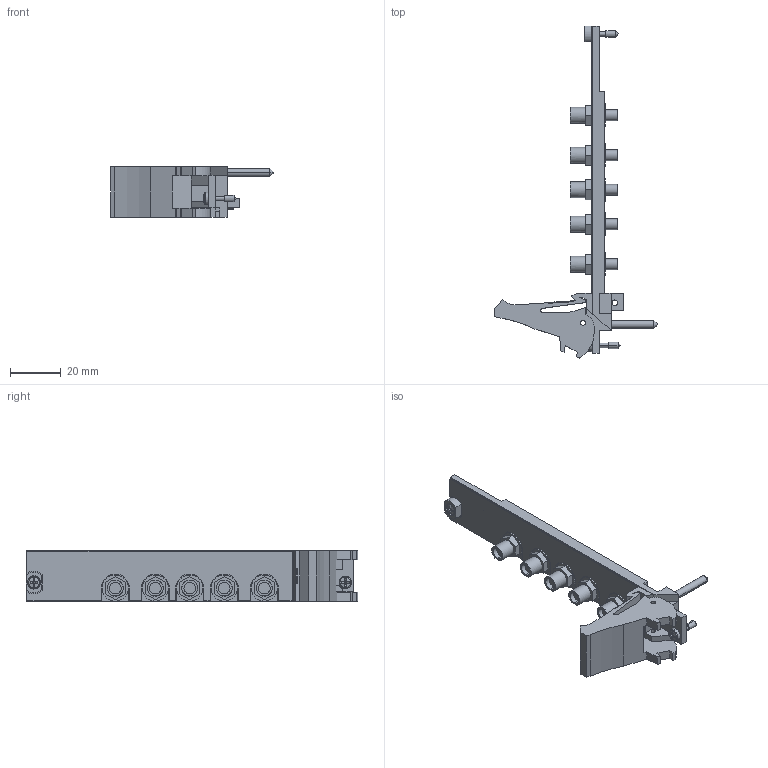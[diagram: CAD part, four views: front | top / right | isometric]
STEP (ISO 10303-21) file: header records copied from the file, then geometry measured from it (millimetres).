
FILE_DESCRIPTION((''),'2;1');
FILE_NAME('CU_PXI-2545','2009-11-10T',('jjorden'),(''),'PRO/ENGINEER BY PARAMETRIC TECHNOLOGY CORPORATION, 2006080','PRO/ENGINEER BY PARAMETRIC TECHNOLOGY CORPORATION, 2006080','');
FILE_SCHEMA(('CONFIG_CONTROL_DESIGN'));
Length unit declared in the file: inch
Products named in the file (1): CU_PXI-2545
Bounding box: 63.73 x 130.43 x 20.02 mm (x, y, z)
Volume: 19449.4 mm3; surface area: 15191.4 mm2
Topology: 1 solids, 1 shells, 541 faces, 1391 edges, 910 vertices
Faces by surface type: plane 344, cylinder 169, cone 20, torus 4, sphere 4
Entity records: 16597 total; most frequent: CARTESIAN_POINT 3009, DIRECTION 2852, ORIENTED_EDGE 2774, EDGE_CURVE 1387, VECTOR 968, LINE 968, AXIS2_PLACEMENT_3D 942, VERTEX_POINT 910
